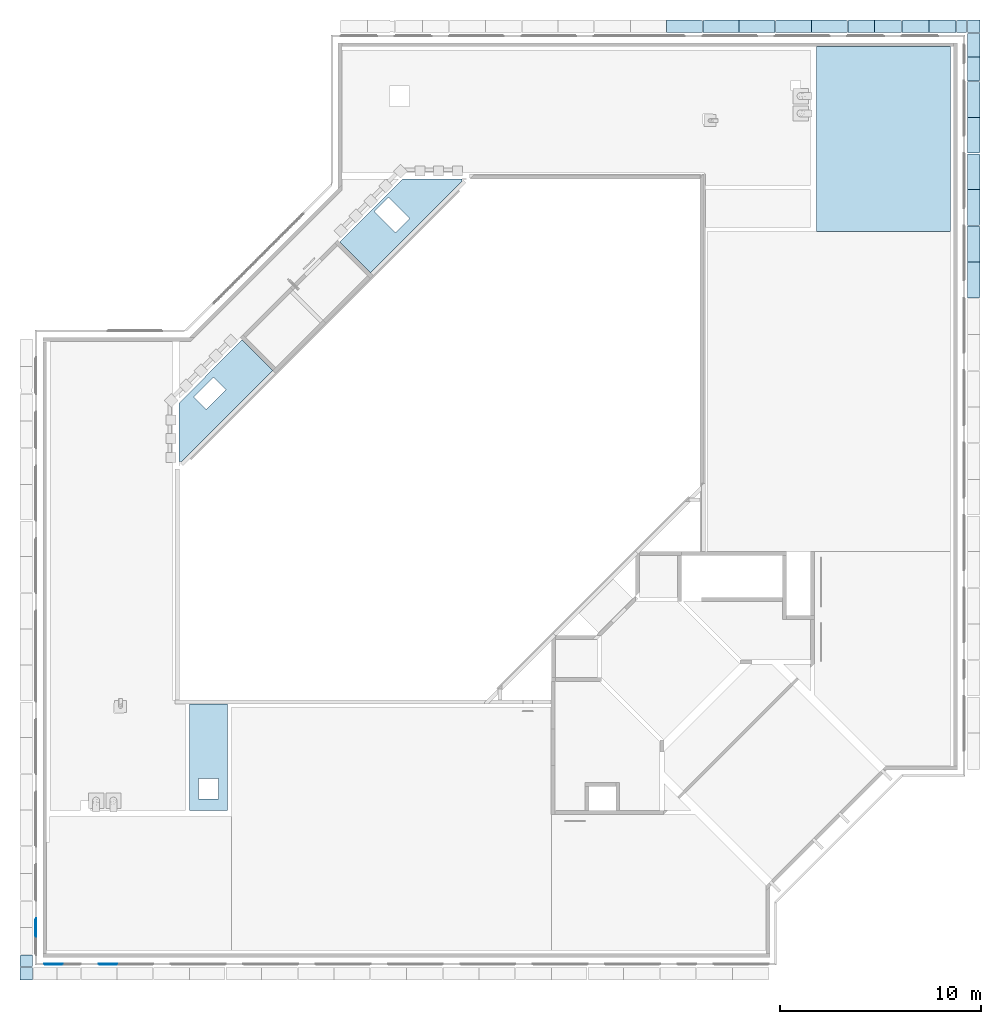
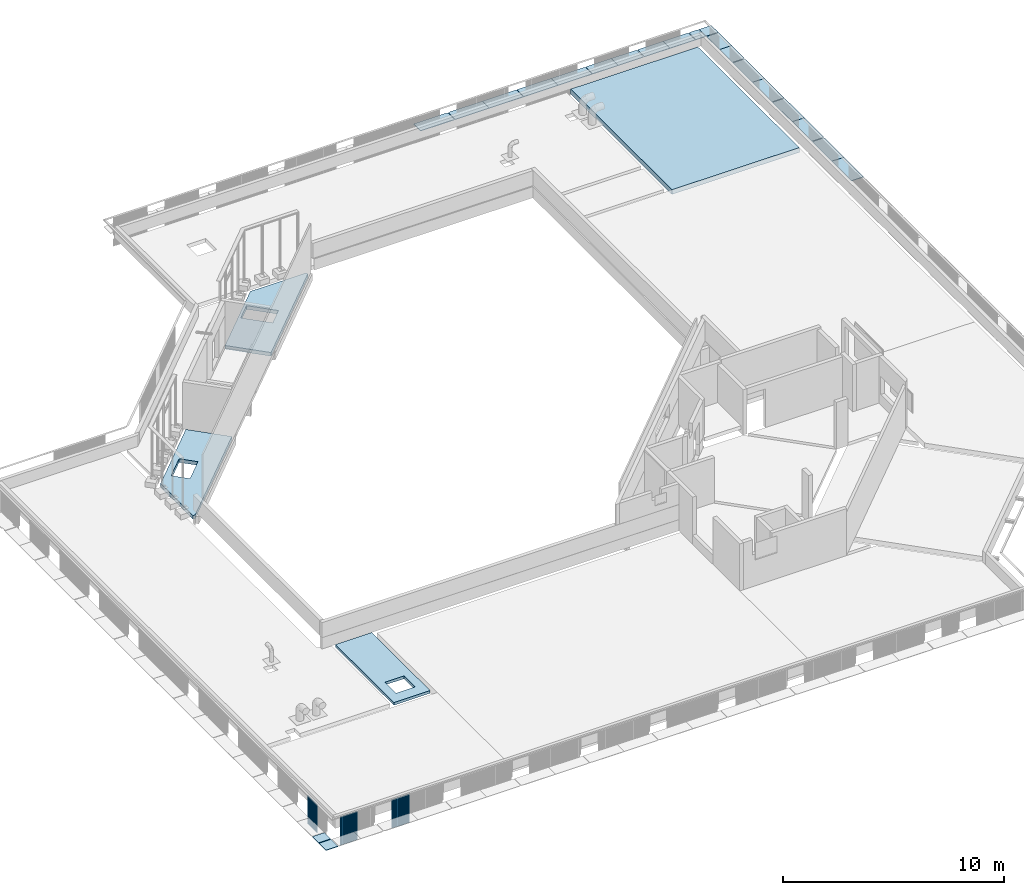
# One storey, part 7 of 37: 25 slabs, 3 walls.
"""IFC4X3_ADD2 building model written with IfcOpenShell, lengths in millimetres."""

from ifc_helpers import new_model, si_unit, direction, frame, frame_2d, origin_with_axes, origin_2d_with_axis, place, context, subcontext, project, spatial, polyline, rectangle, outline, extrude, faceted_brep, material, type_object, element, save


model = new_model("IFC4X3_ADD2")

# Units and contexts
model_context = context("Model", 3, precision=1e-05, world=origin_with_axes(), true_north=direction((0.0, 1.0)))
body_context = subcontext(model_context, "Body", "Model", "MODEL_VIEW")
ifc_project = project(units=[si_unit("LENGTHUNIT", "METRE", prefix="MILLI"), si_unit("AREAUNIT", "SQUARE_METRE"), si_unit("VOLUMEUNIT", "CUBIC_METRE"), si_unit("PLANEANGLEUNIT", "RADIAN"), si_unit("TIMEUNIT", "SECOND"), si_unit("MASSUNIT", "GRAM")], contexts=[model_context])

# Site, building, storey
site_placement = place(None, origin_with_axes())
site = spatial("IfcSite", under=ifc_project, at=site_placement, Name="Site", CompositionType="ELEMENT")
building_placement = place(site_placement, origin_with_axes())
building = spatial("IfcBuilding", under=site, at=building_placement, Name="IFC Building Story")
storey_placement = place(building_placement, frame((0.0, 0.0, 14400.0), z_axis=(0.0, 0.0, 1.0), x_axis=(1.0, 0.0, 0.0)))
storey = spatial("IfcBuildingStorey", under=building, at=storey_placement, Name="040", Elevation=14400.0)

# Slabs
ifc_material_1 = material(Name="BB_Beton_Bestaand")
slab_type_1 = type_object("IfcSlabType", Name="BB_Beton_Bestaand 200", PredefinedType="FLOOR", material=ifc_material_1)
slab_1_placement = place(storey_placement, frame((-35473.2543468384, 30614.34723978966, -400.0), z_axis=(0.0, 0.0, 1.0), x_axis=(-0.7071067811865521, -0.707106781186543, 0.0)))
element("IfcSlab", 1, at=slab_1_placement, inside=storey, type_object=slab_type_1, Name="Floor:BB_XX_Vloer uit beton, 200 mm", ObjectType="Floor:BB_XX_Vloer uit beton, 200 mm", PredefinedType="FLOOR", context=body_context, shape_type="Brep", body=[
    faceted_brep([(6497.325663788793, 2071.885381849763, 200.0000000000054), (4426.427029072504, 0.9867471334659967, 200.0000000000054), (4426.427029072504, 0.9867471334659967, 5.343281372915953e-12), (6497.325663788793, 2071.885381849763, 5.343281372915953e-12), (0.4821838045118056, -1.591615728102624e-12, 200.0000000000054), (0.4821838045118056, -1.591615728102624e-12, 5.343281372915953e-12), (2.273736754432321e-12, 2162.781984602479, 200.0000000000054), (2.273736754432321e-12, 2162.781984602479, 5.343281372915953e-12), (6406.429061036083, 2162.781984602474, 200.0000000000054), (6406.429061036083, 2162.781984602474, 5.343281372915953e-12), (2320.689740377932, 305.755366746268, 200.0000000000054), (3704.689740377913, 305.755366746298, 200.0000000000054), (3704.689740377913, 305.755366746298, 5.343281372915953e-12), (2320.689740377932, 305.755366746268, 5.343281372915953e-12), (3704.689740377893, 1189.755366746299, 200.0000000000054), (3704.689740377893, 1189.755366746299, 5.343281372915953e-12), (2320.689740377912, 1189.755366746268, 200.0000000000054), (2320.689740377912, 1189.755366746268, 5.343281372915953e-12)], [[[0, 1, 2, 3]], [[1, 4, 5, 2]], [[4, 6, 7, 5]], [[6, 8, 9, 7]], [[8, 0, 3, 9]], [[10, 11, 12, 13]], [[11, 14, 15, 12]], [[14, 16, 17, 15]], [[16, 10, 13, 17]], [[11, 10, 16, 14], [1, 0, 8, 6, 4]], [[17, 13, 12, 15], [9, 3, 2, 5, 7]]], outer=[[True], [True], [True], [True], [True], [True], [True], [True], [True], [False, True], [False, True]]),
])
slab_2_placement = place(storey_placement, frame((-26010.80114566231, 40080.3622794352, -400.0), z_axis=(0.0, 0.0, 1.0), x_axis=(-0.7071067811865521, -0.707106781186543, 0.0)))
element("IfcSlab", 2, at=slab_2_placement, inside=storey, type_object=slab_type_1, Name="Floor:BB_XX_Vloer uit beton, 200 mm", ObjectType="Floor:BB_XX_Vloer uit beton, 200 mm", PredefinedType="FLOOR", context=body_context, shape_type="Brep", body=[
    faceted_brep([(6514.930605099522, 0.9869604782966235, 200.0000000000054), (2088.028825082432, -1.84172677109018e-11, 200.0000000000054), (2088.028825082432, -1.84172677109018e-11, 5.343281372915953e-12), (6514.930605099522, 0.9869604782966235, 5.343281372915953e-12), (-4.547473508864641e-12, 2087.097996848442, 200.0000000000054), (-4.547473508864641e-12, 2087.097996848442, 5.343281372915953e-12), (78.20258788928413, 2165.300584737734, 200.0000000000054), (78.20258788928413, 2165.300584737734, 5.343281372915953e-12), (6514.448079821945, 2165.300584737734, 200.0000000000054), (6514.448079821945, 2165.300584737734, 5.343281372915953e-12), (4220.682086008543, 1627.074646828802, 200.0000000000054), (3220.682086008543, 1627.074646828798, 200.0000000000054), (3220.682086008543, 1627.074646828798, 5.343281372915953e-12), (4220.682086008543, 1627.074646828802, 5.343281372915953e-12), (3220.682086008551, 127.0746468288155, 200.0000000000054), (3220.682086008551, 127.0746468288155, 5.343281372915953e-12), (4220.682086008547, 127.0746468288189, 200.0000000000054), (4220.682086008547, 127.0746468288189, 5.343281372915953e-12)], [[[0, 1, 2, 3]], [[1, 4, 5, 2]], [[4, 6, 7, 5]], [[6, 8, 9, 7]], [[8, 0, 3, 9]], [[10, 11, 12, 13]], [[11, 14, 15, 12]], [[14, 16, 17, 15]], [[16, 10, 13, 17]], [[11, 10, 16, 14], [1, 0, 8, 6, 4]], [[17, 13, 12, 15], [9, 3, 2, 5, 7]]], outer=[[True], [True], [True], [True], [True], [True], [True], [True], [True], [False, True], [False, True]]),
])
slab_type_2 = type_object("IfcSlabType", Name="BB_Beton_Bestaand 260", PredefinedType="FLOOR", material=ifc_material_1)
slab_3_placement = place(storey_placement, frame((-6909.99999999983, 45190.0, -459.9999999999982), z_axis=(0.0, 0.0, 1.0), x_axis=(0.0, -1.0, 0.0)))
element("IfcSlab", 3, at=slab_3_placement, inside=storey, type_object=slab_type_2, Name="Floor:BB_XX_Vloer welfsels, 260 mm", ObjectType="Floor:BB_XX_Vloer welfsels, 260 mm", PredefinedType="FLOOR", context=body_context, shape_type="SweptSolid", body=[
    extrude(rectangle(XDim=9190.0, YDim=6665.0, at=frame_2d((0.0, 0.0), x_axis=(-1.0, 0.0))), frame((4595.0, 3332.5, 0.0), z_axis=(0.0, 0.0, 1.0), x_axis=(1.0, 0.0, 0.0)), (0.0, 0.0, 1.0), 259.999999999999),
])
slab_type_3 = type_object("IfcSlabType", Name="BB_Beton_Bestaand 150", PredefinedType="FLOOR", material=ifc_material_1)
slab_4_placement = place(storey_placement, frame((-38100.00000000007, 12495.00406588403, -350.0), z_axis=(0.0, 0.0, 1.0), x_axis=(0.0, -1.0, 0.0)))
element("IfcSlab", 4, at=slab_4_placement, inside=storey, type_object=slab_type_3, Name="Floor:BB_XX_Vloer uit beton, 150 mm", ObjectType="Floor:BB_XX_Vloer uit beton, 150 mm", PredefinedType="FLOOR", context=body_context, shape_type="Brep", body=[
    faceted_brep([(5295.004065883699, 1900.000000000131, 150.0), (5295.004065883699, 0.0, 150.0), (5295.004065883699, 0.0, 0.0), (5295.004065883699, 1900.000000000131, 0.0), (0.0, 0.0, 150.0), (0.0, 0.0, 0.0), (0.0, 1900.000000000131, 150.0), (0.0, 1900.000000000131, 0.0), (3705.0040658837, 450.0000000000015, 150.0), (4705.004065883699, 450.0000000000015, 150.0), (4705.004065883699, 450.0000000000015, 0.0), (3705.0040658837, 450.0000000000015, 0.0), (4705.004065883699, 1450.00000000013, 150.0), (4705.004065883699, 1450.00000000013, 0.0), (3705.0040658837, 1450.00000000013, 150.0), (3705.0040658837, 1450.00000000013, 0.0)], [[[0, 1, 2, 3]], [[1, 4, 5, 2]], [[4, 6, 7, 5]], [[6, 0, 3, 7]], [[8, 9, 10, 11]], [[9, 12, 13, 10]], [[12, 14, 15, 13]], [[14, 8, 11, 15]], [[9, 8, 14, 12], [1, 0, 6, 4]], [[15, 11, 10, 13], [7, 3, 2, 5]]], outer=[[True], [True], [True], [True], [True], [True], [True], [True], [False, True], [False, True]]),
])
ifc_material_2 = material(Name="Steel, Galvanized - looprooster")
slab_type_4 = type_object("IfcSlabType", Name="Steel, Galvanized - looprooster 30", PredefinedType="FLOOR", material=ifc_material_2)
slab_5_placement = place(storey_placement, frame((-46519.9983978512, -551.498741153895, -350.0), z_axis=(0.0, 0.0, 1.0), x_axis=(1.0, 0.0, 0.0)))
element("IfcSlab", 5, at=slab_5_placement, inside=storey, type_object=slab_type_4, Name="Floor:GVH - Looprooster 30 mm", ObjectType="Floor:GVH - Looprooster 30 mm", PredefinedType="FLOOR", context=body_context, shape_type="SweptSolid", body=[
    extrude(outline(polyline([(415.0, 206.1662349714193), (415.0, -360.3324699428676), (-214.9999999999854, -360.3324699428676), (-214.9999999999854, 154.1662349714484), (-200.0, 154.1662349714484), (-200.0, 206.1662349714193), (415.0, 206.1662349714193)])), frame((214.9999999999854, 360.3324699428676, 0.0), z_axis=(0.0, 0.0, 1.0), x_axis=(1.0, 0.0, 0.0)), (0.0, 0.0, 1.0), 29.99999999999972),
])
slab_6_placement = place(storey_placement, frame((-46519.9983978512, -1219.998397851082, -350.0), z_axis=(0.0, 0.0, 1.0), x_axis=(1.0, 0.0, 0.0)))
element("IfcSlab", 6, at=slab_6_placement, inside=storey, type_object=slab_type_4, Name="Floor:GVH - Looprooster 30 mm", ObjectType="Floor:GVH - Looprooster 30 mm", PredefinedType="FLOOR", context=body_context, shape_type="SweptSolid", body=[
    extrude(rectangle(XDim=629.9999999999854, YDim=629.9996566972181, at=origin_2d_with_axis()), frame((314.9999999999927, 314.9998283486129, 0.0), z_axis=(0.0, 0.0, 1.0), x_axis=(1.0, 0.0, 0.0)), (0.0, 0.0, 1.0), 29.99999999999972),
])
slab_7_placement = place(storey_placement, frame((-14369.00163642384, 45890.00411984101, -350.0), z_axis=(0.0, 0.0, 1.0), x_axis=(1.0, 0.0, 0.0)))
element("IfcSlab", 7, at=slab_7_placement, inside=storey, type_object=slab_type_4, Name="Floor:GVH - Looprooster 30 mm", ObjectType="Floor:GVH - Looprooster 30 mm", PredefinedType="FLOOR", context=body_context, shape_type="SweptSolid", body=[
    extrude(outline(polyline([(625.3326666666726, 200.0000000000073), (625.3326666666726, -414.9999999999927), (-1163.665333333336, -414.9999999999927), (-1163.665333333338, 214.9999999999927), (538.3326666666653, 214.9999999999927), (538.3326666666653, 200.0000000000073), (625.3326666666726, 200.0000000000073)])), frame((1163.665333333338, 414.9999999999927, 0.0), z_axis=(0.0, 0.0, 1.0), x_axis=(1.0, 0.0, 0.0)), (0.0, 0.0, 1.0), 29.99999999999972),
])
slab_8_placement = place(storey_placement, frame((-12550.00363642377, 45890.004119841, -350.0), z_axis=(0.0, 0.0, 1.0), x_axis=(1.0, 0.0, 0.0)))
element("IfcSlab", 8, at=slab_8_placement, inside=storey, type_object=slab_type_4, Name="Floor:GVH - Looprooster 30 mm", ObjectType="Floor:GVH - Looprooster 30 mm", PredefinedType="FLOOR", context=body_context, shape_type="SweptSolid", body=[
    extrude(outline(polyline([(1161.001333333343, 214.9999999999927), (1161.001333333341, -415.0), (-624.0006666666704, -415.0), (-624.0006666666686, 200.0), (-537.0006666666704, 200.0), (-537.0006666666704, 215.0), (1161.001333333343, 214.9999999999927)])), frame((624.0006666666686, 415.0, 0.0), z_axis=(0.0, 0.0, 1.0), x_axis=(1.0, 0.0, 0.0)), (0.0, 0.0, 1.0), 29.99999999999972),
])
slab_9_placement = place(storey_placement, frame((-10765.00163642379, 45890.00411984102, -350.0), z_axis=(0.0, 0.0, 1.0), x_axis=(1.0, 0.0, 0.0)))
element("IfcSlab", 9, at=slab_9_placement, inside=storey, type_object=slab_type_4, Name="Floor:GVH - Looprooster 30 mm", ObjectType="Floor:GVH - Looprooster 30 mm", PredefinedType="FLOOR", context=body_context, shape_type="SweptSolid", body=[
    extrude(outline(polyline([(612.3326666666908, 200.0000000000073), (612.3326666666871, -414.9999999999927), (-1172.665333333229, -415.0), (-1172.665333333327, 214.9999999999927), (560.3326666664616, 214.9999999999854), (560.3326666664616, 200.0), (612.3326666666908, 200.0000000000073)])), frame((1172.665333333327, 414.9999999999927, 0.0), z_axis=(0.0, 0.0, 1.0), x_axis=(1.0, 0.0, 0.0)), (0.0, 0.0, 1.0), 29.99999999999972),
])
slab_10_placement = place(storey_placement, frame((-8950.003636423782, 45890.00125884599, -350.0), z_axis=(0.0, 0.0, 1.0), x_axis=(1.0, 0.0, 0.0)))
element("IfcSlab", 10, at=slab_10_placement, inside=storey, type_object=slab_type_4, Name="Floor:GVH - Looprooster 30 mm", ObjectType="Floor:GVH - Looprooster 30 mm", PredefinedType="FLOOR", context=body_context, shape_type="SweptSolid", body=[
    extrude(outline(polyline([(1172.667999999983, 214.9999999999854), (1172.66799999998, -415.0000000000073), (-612.3340000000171, -415.0000000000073), (-612.3340000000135, 199.9999999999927), (-560.3339999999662, 199.9999999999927), (-560.3339999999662, 214.9999999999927), (1172.667999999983, 214.9999999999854)])), frame((612.3340000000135, 415.0000000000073, 0.0), z_axis=(0.0, 0.0, 1.0), x_axis=(1.0, 0.0, 0.0)), (0.0, 0.0, 1.0), 29.99999999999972),
])
slab_11_placement = place(storey_placement, frame((-7165.001636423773, 45890.00125884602, -350.0), z_axis=(0.0, 0.0, 1.0), x_axis=(1.0, 0.0, 0.0)))
element("IfcSlab", 11, at=slab_11_placement, inside=storey, type_object=slab_type_4, Name="Floor:GVH - Looprooster 30 mm", ObjectType="Floor:GVH - Looprooster 30 mm", PredefinedType="FLOOR", context=body_context, shape_type="SweptSolid", body=[
    extrude(outline(polyline([(612.3326666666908, 200.0000000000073), (612.3326666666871, -414.9999999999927), (-1172.665333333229, -415.0), (-1172.665333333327, 214.9999999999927), (560.3326666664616, 214.9999999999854), (560.3326666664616, 200.0), (612.3326666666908, 200.0000000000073)])), frame((1172.665333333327, 414.9999999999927, 0.0), z_axis=(0.0, 0.0, 1.0), x_axis=(1.0, 0.0, 0.0)), (0.0, 0.0, 1.0), 29.99999999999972),
])
slab_12_placement = place(storey_placement, frame((-5350.003636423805, 45890.00125884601, -350.0), z_axis=(0.0, 0.0, 1.0), x_axis=(1.0, 0.0, 0.0)))
element("IfcSlab", 12, at=slab_12_placement, inside=storey, type_object=slab_type_4, Name="Floor:GVH - Looprooster 30 mm", ObjectType="Floor:GVH - Looprooster 30 mm", PredefinedType="FLOOR", context=body_context, shape_type="SweptSolid", body=[
    extrude(outline(polyline([(872.6679999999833, 214.9999999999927), (872.6679999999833, -414.9999999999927), (-462.3340000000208, -414.9999999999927), (-462.3340000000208, 200.0), (-410.3339999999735, 200.0000000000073), (-410.3339999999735, 214.9999999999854), (872.6679999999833, 214.9999999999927)])), frame((462.3340000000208, 414.9999999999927, 0.0), z_axis=(0.0, 0.0, 1.0), x_axis=(1.0, 0.0, 0.0)), (0.0, 0.0, 1.0), 29.99999999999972),
])
slab_13_placement = place(storey_placement, frame((-4015.001636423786, 45890.00125884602, -350.0), z_axis=(0.0, 0.0, 1.0), x_axis=(1.0, 0.0, 0.0)))
element("IfcSlab", 13, at=slab_13_placement, inside=storey, type_object=slab_type_4, Name="Floor:GVH - Looprooster 30 mm", ObjectType="Floor:GVH - Looprooster 30 mm", PredefinedType="FLOOR", context=body_context, shape_type="SweptSolid", body=[
    extrude(outline(polyline([(462.3326666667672, 200.0000000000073), (462.3326666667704, -414.9999999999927), (-872.6653333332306, -414.9999999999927), (-872.6653333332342, 214.9999999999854), (410.3326666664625, 214.9999999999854), (410.332666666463, 200.0000000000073), (462.3326666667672, 200.0000000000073)])), frame((872.6653333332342, 414.9999999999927, 0.0), z_axis=(0.0, 0.0, 1.0), x_axis=(1.0, 0.0, 0.0)), (0.0, 0.0, 1.0), 29.99999999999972),
])
slab_14_placement = place(storey_placement, frame((-2650.003636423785, 45890.00125884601, -350.0), z_axis=(0.0, 0.0, 1.0), x_axis=(1.0, 0.0, 0.0)))
element("IfcSlab", 14, at=slab_14_placement, inside=storey, type_object=slab_type_4, Name="Floor:GVH - Looprooster 30 mm", ObjectType="Floor:GVH - Looprooster 30 mm", PredefinedType="FLOOR", context=body_context, shape_type="SweptSolid", body=[
    extrude(outline(polyline([(872.6679999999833, 214.9999999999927), (872.6679999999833, -414.9999999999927), (-462.3340000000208, -414.9999999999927), (-462.3340000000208, 200.0), (-410.3339999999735, 200.0000000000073), (-410.3339999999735, 214.9999999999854), (872.6679999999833, 214.9999999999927)])), frame((462.3340000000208, 414.9999999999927, 0.0), z_axis=(0.0, 0.0, 1.0), x_axis=(1.0, 0.0, 0.0)), (0.0, 0.0, 1.0), 29.99999999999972),
])
slab_15_placement = place(storey_placement, frame((-1315.001636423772, 45890.00125884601, -350.0), z_axis=(0.0, 0.0, 1.0), x_axis=(1.0, 0.0, 0.0)))
element("IfcSlab", 15, at=slab_15_placement, inside=storey, type_object=slab_type_4, Name="Floor:GVH - Looprooster 30 mm", ObjectType="Floor:GVH - Looprooster 30 mm", PredefinedType="FLOOR", context=body_context, shape_type="SweptSolid", body=[
    extrude(outline(polyline([(462.3326666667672, 200.0000000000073), (462.3326666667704, -414.9999999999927), (-872.6653333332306, -414.9999999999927), (-872.6653333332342, 214.9999999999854), (410.3326666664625, 214.9999999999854), (410.332666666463, 200.0000000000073), (462.3326666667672, 200.0000000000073)])), frame((872.6653333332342, 414.9999999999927, 0.0), z_axis=(0.0, 0.0, 1.0), x_axis=(1.0, 0.0, 0.0)), (0.0, 0.0, 1.0), 29.99999999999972),
])
slab_16_placement = place(storey_placement, frame((49.99636357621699, 46520.00125884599, -350.0), z_axis=(0.0, 0.0, 1.0), x_axis=(0.0, -1.0, 0.0)))
element("IfcSlab", 16, at=slab_16_placement, inside=storey, type_object=slab_type_4, Name="Floor:GVH - Looprooster 30 mm", ObjectType="Floor:GVH - Looprooster 30 mm", PredefinedType="FLOOR", context=body_context, shape_type="SweptSolid", body=[
    extrude(outline(polyline([(-214.9999999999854, 317.002353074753), (414.9999999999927, 317.002353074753), (414.9999999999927, -184.5011765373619), (-200.0000000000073, -184.501176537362), (-200.0000000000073, -132.501176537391), (-214.9999999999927, -132.501176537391), (-214.9999999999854, 317.002353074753)])), frame((214.9999999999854, 184.501176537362, 0.0), z_axis=(0.0, 0.0, 1.0), x_axis=(1.0, 0.0, 0.0)), (0.0, 0.0, 1.0), 29.99999999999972),
])
slab_17_placement = place(storey_placement, frame((589.9883978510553, 45890.001258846, -350.0), z_axis=(0.0, 0.0, 1.0), x_axis=(1.0, 0.0, 0.0)))
element("IfcSlab", 17, at=slab_17_placement, inside=storey, type_object=slab_type_4, Name="Floor:GVH - Looprooster 30 mm", ObjectType="Floor:GVH - Looprooster 30 mm", PredefinedType="FLOOR", context=body_context, shape_type="SweptSolid", body=[
    extrude(rectangle(XDim=629.9999999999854, YDim=629.9999999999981, at=frame_2d((0.0, 0.0), x_axis=(0.0, 1.0))), frame((314.9999999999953, 315.0, 0.0), z_axis=(0.0, 0.0, 1.0), x_axis=(1.0, 0.0, 0.0)), (0.0, 0.0, 1.0), 29.99999999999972),
])
slab_18_placement = place(storey_placement, frame((589.988397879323, 45851.50313160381, -350.0), z_axis=(0.0, 0.0, 1.0), x_axis=(0.0, -1.0, 0.0)))
element("IfcSlab", 18, at=slab_18_placement, inside=storey, type_object=slab_type_4, Name="Floor:GVH - Looprooster 30 mm", ObjectType="Floor:GVH - Looprooster 30 mm", PredefinedType="FLOOR", context=body_context, shape_type="SweptSolid", body=[
    extrude(rectangle(XDim=1177.998000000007, YDim=630.517331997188, at=frame_2d((0.0, 0.0), x_axis=(-1.0, 0.0))), frame((588.9990000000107, 315.258665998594, 0.0), z_axis=(0.0, 0.0, 1.0), x_axis=(1.0, 0.0, 0.0)), (0.0, 0.0, 1.0), 29.99999999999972),
])
slab_19_placement = place(storey_placement, frame((589.9883978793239, 44672.99811246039, -350.0), z_axis=(0.0, 0.0, 1.0), x_axis=(0.0, -1.0, 0.0)))
element("IfcSlab", 19, at=slab_19_placement, inside=storey, type_object=slab_type_4, Name="Floor:GVH - Looprooster 30 mm", ObjectType="Floor:GVH - Looprooster 30 mm", PredefinedType="FLOOR", context=body_context, shape_type="SweptSolid", body=[
    extrude(outline(polyline([(357.9993587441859, 199.849688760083), (409.9993587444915, 199.849688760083), (409.9993587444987, -415.1825376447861), (-767.9987174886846, -415.1825376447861), (-767.9987174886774, 215.3328488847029), (357.9993587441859, 215.3328488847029), (357.9993587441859, 199.849688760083)])), frame((767.9987174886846, 415.1825376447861, 0.0), z_axis=(0.0, 0.0, 1.0), x_axis=(1.0, 0.0, 0.0)), (0.0, 0.0, 1.0), 29.99999999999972),
])
slab_20_placement = place(storey_placement, frame((589.9883978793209, 43465.00003622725, -350.0), z_axis=(0.0, 0.0, 1.0), x_axis=(0.0, -1.0, 0.0)))
element("IfcSlab", 20, at=slab_20_placement, inside=storey, type_object=slab_type_4, Name="Floor:GVH - Looprooster 30 mm", ObjectType="Floor:GVH - Looprooster 30 mm", PredefinedType="FLOOR", context=body_context, shape_type="SweptSolid", body=[
    extrude(outline(polyline([(-560.3326666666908, 215.3328488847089), (1172.665333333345, 215.3328488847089), (1172.665333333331, -415.1825376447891), (-612.3326666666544, -415.1825376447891), (-612.3326666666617, 199.84968876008), (-560.3326666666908, 199.84968876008), (-560.3326666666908, 215.3328488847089)])), frame((612.3326666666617, 415.1825376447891, 0.0), z_axis=(0.0, 0.0, 1.0), x_axis=(1.0, 0.0, 0.0)), (0.0, 0.0, 1.0), 29.99999999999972),
])
slab_21_placement = place(storey_placement, frame((589.9883978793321, 41680.00203622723, -350.0), z_axis=(0.0, 0.0, 1.0), x_axis=(0.0, -1.0, 0.0)))
element("IfcSlab", 21, at=slab_21_placement, inside=storey, type_object=slab_type_4, Name="Floor:GVH - Looprooster 30 mm", ObjectType="Floor:GVH - Looprooster 30 mm", PredefinedType="FLOOR", context=body_context, shape_type="SweptSolid", body=[
    extrude(outline(polyline([(560.3340120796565, 199.883064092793), (612.3340120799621, 199.8830640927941), (612.3340120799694, -415.2003696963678), (-1172.668024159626, -415.2003696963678), (-1172.668024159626, 215.3173056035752), (560.3340120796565, 215.317305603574), (560.3340120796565, 199.883064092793)])), frame((1172.668024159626, 415.2003696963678, 0.0), z_axis=(0.0, 0.0, 1.0), x_axis=(1.0, 0.0, 0.0)), (0.0, 0.0, 1.0), 29.99999999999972),
])
slab_22_placement = place(storey_placement, frame((589.9883978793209, 39864.99999998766, -350.0), z_axis=(0.0, 0.0, 1.0), x_axis=(0.0, -1.0, 0.0)))
element("IfcSlab", 22, at=slab_22_placement, inside=storey, type_object=slab_type_4, Name="Floor:GVH - Looprooster 30 mm", ObjectType="Floor:GVH - Looprooster 30 mm", PredefinedType="FLOOR", context=body_context, shape_type="SweptSolid", body=[
    extrude(outline(polyline([(-560.3326666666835, 215.317305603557), (1172.665333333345, 215.317305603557), (1172.665333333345, -415.2003696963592), (-612.3326666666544, -415.2003696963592), (-612.3326666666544, 199.8830640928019), (-560.3326666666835, 199.8830640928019), (-560.3326666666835, 215.317305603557)])), frame((612.3326666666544, 415.2003696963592, 0.0), z_axis=(0.0, 0.0, 1.0), x_axis=(1.0, 0.0, 0.0)), (0.0, 0.0, 1.0), 29.99999999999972),
])
slab_23_placement = place(storey_placement, frame((589.988397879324, 38080.00199998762, -350.0), z_axis=(0.0, 0.0, 1.0), x_axis=(0.0, -1.0, 0.0)))
element("IfcSlab", 23, at=slab_23_placement, inside=storey, type_object=slab_type_4, Name="Floor:GVH - Looprooster 30 mm", ObjectType="Floor:GVH - Looprooster 30 mm", PredefinedType="FLOOR", context=body_context, shape_type="SweptSolid", body=[
    extrude(outline(polyline([(560.3340120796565, 199.9158339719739), (612.3340120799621, 199.9158339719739), (612.3340120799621, -415.217899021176), (-1172.668024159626, -415.217899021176), (-1172.668024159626, 215.302065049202), (560.3340120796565, 215.302065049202), (560.3340120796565, 199.9158339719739)])), frame((1172.668024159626, 415.217899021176, 0.0), z_axis=(0.0, 0.0, 1.0), x_axis=(1.0, 0.0, 0.0)), (0.0, 0.0, 1.0), 29.99999999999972),
])
slab_24_placement = place(storey_placement, frame((589.9883978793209, 36264.99999998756, -350.0), z_axis=(0.0, 0.0, 1.0), x_axis=(0.0, -1.0, 0.0)))
element("IfcSlab", 24, at=slab_24_placement, inside=storey, type_object=slab_type_4, Name="Floor:GVH - Looprooster 30 mm", ObjectType="Floor:GVH - Looprooster 30 mm", PredefinedType="FLOOR", context=body_context, shape_type="SweptSolid", body=[
    extrude(outline(polyline([(-560.3326666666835, 215.300539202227), (1172.665333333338, 215.3005392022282), (1172.665333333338, -415.2171360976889), (-612.3326666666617, -415.2171360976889), (-612.3326666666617, 199.9165968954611), (-560.3326666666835, 199.9165968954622), (-560.3326666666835, 215.300539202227)])), frame((612.3326666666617, 415.2171360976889, 0.0), z_axis=(0.0, 0.0, 1.0), x_axis=(1.0, 0.0, 0.0)), (0.0, 0.0, 1.0), 29.99999999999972),
])
slab_25_placement = place(storey_placement, frame((589.98839787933, 34480.00199998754, -350.0), z_axis=(0.0, 0.0, 1.0), x_axis=(0.0, -1.0, 0.0)))
element("IfcSlab", 25, at=slab_25_placement, inside=storey, type_object=slab_type_4, Name="Floor:GVH - Looprooster 30 mm", ObjectType="Floor:GVH - Looprooster 30 mm", PredefinedType="FLOOR", context=body_context, shape_type="SweptSolid", body=[
    extrude(outline(polyline([(537.0006545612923, 200.1345054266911), (624.0006908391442, 200.13450542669), (624.0006908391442, -415.32723474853), (-1161.001345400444, -415.32723474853), (-1161.001345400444, 215.1927293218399), (537.0006545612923, 215.192729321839), (537.0006545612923, 200.1345054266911)])), frame((1161.001345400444, 415.32723474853, 0.0), z_axis=(0.0, 0.0, 1.0), x_axis=(1.0, 0.0, 0.0)), (0.0, 0.0, 1.0), 29.99999999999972),
])

# Walls
ifc_material_3 = material(Name="BB_Metaal_Aluminium_Puntprofiel")
wall_type = type_object("IfcWallType", Name="BB_Metaal_Aluminium_Puntprofiel 1", PredefinedType="NOTDEFINED", material=ifc_material_3)
wall_1_placement = place(storey_placement, origin_with_axes())
element("IfcWall", 26, at=wall_1_placement, inside=storey, type_object=wall_type, Name="BB_07.10_Gevelbekleding_PuntProfiel, 900 mm, vol_GMO:900 x 1600 mm", ObjectType="BB_07.10_Gevelbekleding_PuntProfiel, 900 mm, vol_GMO:900 x 1600 mm", PredefinedType="NOTDEFINED", context=body_context, shape_type="SweptSolid", body=[
    extrude(outline(polyline([(-349.00000000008, 10.06027913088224), (-371.0000000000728, 10.06027913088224), (-405.0000000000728, -23.93972086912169), (-439.0000000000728, 10.06027913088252), (-461.0000000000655, 10.06027913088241), (-461.4142135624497, 11.060279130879), (-438.5857864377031, 11.060279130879), (-405.0000000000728, -22.52550730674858), (-371.414213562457, 11.06027913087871), (-348.5857864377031, 11.06027913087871), (-315.00000000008, -22.52550730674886), (-281.4142135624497, 11.06027913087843), (-258.5857864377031, 11.06027913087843), (-225.0000000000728, -22.52550730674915), (-191.4142135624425, 11.06027913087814), (-168.5857864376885, 11.06027913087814), (-135.0000000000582, -22.52550730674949), (-101.4142135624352, 11.06027913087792), (-78.58578643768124, 11.06027913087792), (-45.00000000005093, -22.52550730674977), (-11.41421356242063, 11.06027913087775), (11.41421356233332, 11.06027913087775), (44.99999999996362, -22.52550730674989), (78.58578643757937, 11.0602791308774), (101.4142135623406, 11.0602791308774), (134.9999999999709, -22.52550730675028), (168.5857864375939, 11.06027913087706), (191.4142135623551, 11.06027913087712), (224.9999999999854, -22.52550730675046), (258.5857864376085, 11.06027913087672), (281.4142135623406, 11.06027913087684), (314.9999999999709, -22.52550730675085), (348.5857864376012, 11.06027913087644), (371.4142135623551, 11.06027913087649), (404.9999999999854, -22.52550730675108), (438.5857864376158, 11.06027913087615), (461.4142135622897, 11.06027913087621), (460.9999999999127, 10.06027913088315), (438.9999999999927, 10.06027913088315), (404.9999999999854, -23.93972086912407), (370.9999999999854, 10.06027913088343), (348.9999999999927, 10.06027913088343), (314.9999999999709, -23.93972086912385), (280.9999999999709, 10.06027913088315), (259.0, 10.06027913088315), (224.9999999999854, -23.93972086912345), (190.9999999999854, 10.060279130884), (168.9999999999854, 10.060279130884), (134.9999999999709, -23.93972086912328), (100.9999999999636, 10.06027913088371), (78.9999999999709, 10.06027913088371), (44.99999999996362, -23.93972086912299), (10.99999999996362, 10.06027913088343), (-11.00000000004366, 10.06027913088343), (-45.00000000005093, -23.93972086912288), (-79.00000000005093, 10.06027913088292), (-101.0000000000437, 10.06027913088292), (-135.0000000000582, -23.9397208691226), (-169.0000000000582, 10.06027913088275), (-191.0000000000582, 10.06027913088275), (-225.0000000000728, -23.93972086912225), (-259.0000000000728, 10.06027913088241), (-281.0000000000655, 10.06027913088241), (-315.00000000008, -23.93972086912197), (-349.00000000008, 10.06027913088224)])), frame((-44850.00000000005, -426.0602791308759, -960.0), z_axis=(0.0, 0.0, 1.0), x_axis=(1.0, 0.0, 0.0)), (0.0, 0.0, 1.0), 1600.0),
])
wall_2_placement = place(storey_placement, origin_with_axes())
element("IfcWall", 27, at=wall_2_placement, inside=storey, type_object=wall_type, Name="BB_07.10_Gevelbekleding_PuntProfiel, 900 mm, vol_GMO:900 x 1600 mm", ObjectType="BB_07.10_Gevelbekleding_PuntProfiel, 900 mm, vol_GMO:900 x 1600 mm", PredefinedType="NOTDEFINED", context=body_context, shape_type="SweptSolid", body=[
    extrude(outline(polyline([(-349.00000000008, 10.06027913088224), (-371.0000000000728, 10.06027913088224), (-405.0000000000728, -23.93972086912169), (-439.0000000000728, 10.06027913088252), (-461.0000000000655, 10.06027913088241), (-461.4142135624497, 11.060279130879), (-438.5857864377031, 11.060279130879), (-405.0000000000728, -22.52550730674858), (-371.414213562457, 11.06027913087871), (-348.5857864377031, 11.06027913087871), (-315.00000000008, -22.52550730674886), (-281.4142135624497, 11.06027913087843), (-258.5857864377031, 11.06027913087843), (-225.0000000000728, -22.52550730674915), (-191.4142135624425, 11.06027913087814), (-168.5857864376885, 11.06027913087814), (-135.0000000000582, -22.52550730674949), (-101.4142135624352, 11.06027913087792), (-78.58578643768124, 11.06027913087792), (-45.00000000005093, -22.52550730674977), (-11.41421356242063, 11.06027913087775), (11.41421356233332, 11.06027913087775), (44.99999999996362, -22.52550730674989), (78.58578643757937, 11.0602791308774), (101.4142135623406, 11.0602791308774), (134.9999999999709, -22.52550730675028), (168.5857864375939, 11.06027913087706), (191.4142135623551, 11.06027913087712), (224.9999999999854, -22.52550730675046), (258.5857864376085, 11.06027913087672), (281.4142135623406, 11.06027913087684), (314.9999999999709, -22.52550730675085), (348.5857864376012, 11.06027913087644), (371.4142135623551, 11.06027913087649), (404.9999999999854, -22.52550730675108), (438.5857864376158, 11.06027913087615), (461.4142135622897, 11.06027913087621), (460.9999999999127, 10.06027913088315), (438.9999999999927, 10.06027913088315), (404.9999999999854, -23.93972086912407), (370.9999999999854, 10.06027913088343), (348.9999999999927, 10.06027913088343), (314.9999999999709, -23.93972086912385), (280.9999999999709, 10.06027913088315), (259.0, 10.06027913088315), (224.9999999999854, -23.93972086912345), (190.9999999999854, 10.060279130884), (168.9999999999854, 10.060279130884), (134.9999999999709, -23.93972086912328), (100.9999999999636, 10.06027913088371), (78.9999999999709, 10.06027913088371), (44.99999999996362, -23.93972086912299), (10.99999999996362, 10.06027913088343), (-11.00000000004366, 10.06027913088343), (-45.00000000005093, -23.93972086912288), (-79.00000000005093, 10.06027913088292), (-101.0000000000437, 10.06027913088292), (-135.0000000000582, -23.9397208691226), (-169.0000000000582, 10.06027913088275), (-191.0000000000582, 10.06027913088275), (-225.0000000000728, -23.93972086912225), (-259.0000000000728, 10.06027913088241), (-281.0000000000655, 10.06027913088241), (-315.00000000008, -23.93972086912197), (-349.00000000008, 10.06027913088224)])), frame((-42150.0, -426.0602791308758, -960.0), z_axis=(0.0, 0.0, 1.0), x_axis=(1.0, 0.0, 0.0)), (0.0, 0.0, 1.0), 1600.0),
])
wall_3_placement = place(storey_placement, origin_with_axes())
element("IfcWall", 28, at=wall_3_placement, inside=storey, type_object=wall_type, Name="BB_07.10_Gevelbekleding_PuntProfiel, 900 mm, vol_GMO:900 x 1600 mm", ObjectType="BB_07.10_Gevelbekleding_PuntProfiel, 900 mm, vol_GMO:900 x 1600 mm", PredefinedType="NOTDEFINED", context=body_context, shape_type="SweptSolid", body=[
    extrude(outline(polyline([(10.06027913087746, 349.0000000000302), (10.06027913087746, 371.0000000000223), (-23.93972086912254, 405.0000000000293), (10.06027913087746, 439.0000000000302), (10.06027913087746, 461.0000000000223), (11.06027913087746, 461.4142135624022), (11.06027913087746, 438.5857864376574), (-22.52550730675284, 405.0000000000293), (11.06027913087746, 371.4142135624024), (11.06027913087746, 348.5857864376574), (-22.52550730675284, 315.0000000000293), (11.06027913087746, 281.4142135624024), (11.06027913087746, 258.5857864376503), (-22.52550730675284, 225.0000000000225), (11.06027913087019, 191.4142135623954), (11.06027913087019, 168.5857864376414), (-22.52550730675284, 135.0000000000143), (11.06027913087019, 101.4142135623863), (11.06027913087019, 78.58578643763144), (-22.52550730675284, 45.00000000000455), (11.06027913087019, 11.41421356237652), (11.06027913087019, -11.41421356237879), (-22.52550730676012, -45.00000000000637), (11.06027913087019, -78.58578643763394), (11.06027913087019, -101.4142135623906), (-22.52550730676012, -135.0000000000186), (11.06027913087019, -168.5857864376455), (11.06027913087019, -191.4142135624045), (-22.52550730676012, -225.0000000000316), (11.06027913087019, -258.5857864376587), (11.06027913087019, -281.4142135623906), (-22.52550730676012, -315.0000000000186), (11.06027913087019, -348.5857864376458), (11.06027913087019, -371.4142135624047), (-22.52550730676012, -405.0000000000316), (11.06027913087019, -438.5857864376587), (11.06027913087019, -461.4142135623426), (10.06027913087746, -460.9999999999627), (10.06027913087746, -439.0000000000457), (-23.93972086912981, -405.0000000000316), (10.06027913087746, -371.0000000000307), (10.06027913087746, -349.0000000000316), (-23.93972086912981, -315.0000000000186), (10.06027913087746, -281.0000000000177), (10.06027913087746, -259.0000000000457), (-23.93972086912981, -225.0000000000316), (10.06027913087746, -191.0000000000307), (10.06027913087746, -169.0000000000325), (-23.93972086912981, -135.0000000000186), (10.06027913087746, -101.0000000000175), (10.06027913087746, -79.00000000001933), (-23.93972086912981, -45.00000000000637), (10.06027913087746, -11.00000000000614), (10.06027913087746, 10.9999999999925), (-23.93972086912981, 45.00000000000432), (10.06027913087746, 79.00000000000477), (10.06027913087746, 101.0000000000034), (-23.93972086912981, 135.0000000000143), (10.06027913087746, 169.0000000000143), (10.06027913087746, 191.0000000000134), (-23.93972086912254, 225.0000000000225), (10.06027913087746, 259.0000000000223), (10.06027913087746, 281.0000000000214), (-23.93972086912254, 315.0000000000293), (10.06027913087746, 349.0000000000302)])), frame((-45726.06027913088, 1380.000000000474, -960.0), z_axis=(0.0, 0.0, 1.0), x_axis=(1.0, 0.0, 0.0)), (0.0, 0.0, 1.0), 1600.0),
])

save(model, "model.ifc")
